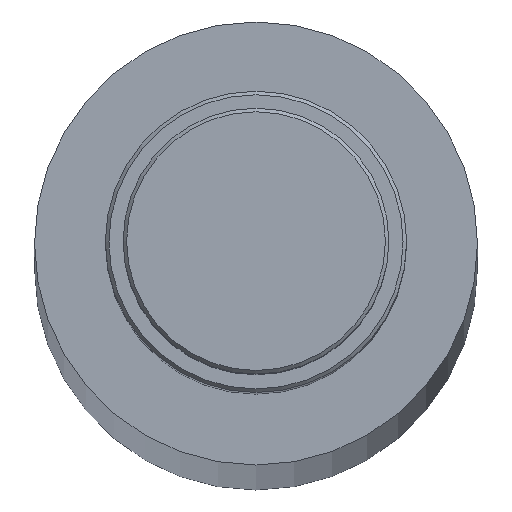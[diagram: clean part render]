
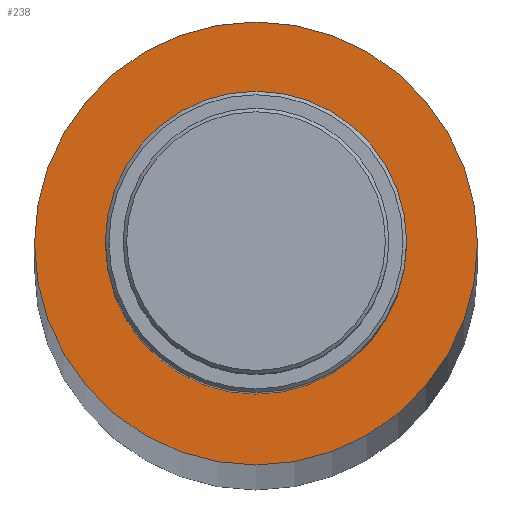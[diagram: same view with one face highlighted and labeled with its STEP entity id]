
A CAD part, top view. The second image highlights one B-rep face of the part: STEP entity #238.
In plain terms, the highlighted planar face has unit normal (0, 0, 1).
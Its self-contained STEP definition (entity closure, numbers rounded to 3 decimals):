
#17=FACE_BOUND('',#65,.T.);
#24=PLANE('',#292);
#45=FACE_OUTER_BOUND('',#64,.T.);
#64=EDGE_LOOP('',(#208));
#65=EDGE_LOOP('',(#209));
#95=CIRCLE('',#268,12.5);
#105=CIRCLE('',#285,8.5);
#115=VERTEX_POINT('',#396);
#125=VERTEX_POINT('',#427);
#137=EDGE_CURVE('',#115,#115,#95,.T.);
#150=EDGE_CURVE('',#125,#125,#105,.T.);
#208=ORIENTED_EDGE('',*,*,#137,.F.);
#209=ORIENTED_EDGE('',*,*,#150,.T.);
#238=ADVANCED_FACE('',(#45,#17),#24,.T.);
#268=AXIS2_PLACEMENT_3D('',#398,#314,#315);
#285=AXIS2_PLACEMENT_3D('',#428,#351,#352);
#292=AXIS2_PLACEMENT_3D('',#441,#368,#369);
#314=DIRECTION('center_axis',(0.,0.,-1.));
#315=DIRECTION('ref_axis',(1.,0.,0.));
#351=DIRECTION('center_axis',(0.,0.,-1.));
#352=DIRECTION('ref_axis',(1.,0.,0.));
#368=DIRECTION('center_axis',(0.,0.,1.));
#369=DIRECTION('ref_axis',(1.,0.,0.));
#396=CARTESIAN_POINT('',(0.,-12.5,-76.));
#398=CARTESIAN_POINT('Origin',(0.,0.,-76.));
#427=CARTESIAN_POINT('',(0.,-8.5,-76.));
#428=CARTESIAN_POINT('Origin',(0.,0.,-76.));
#441=CARTESIAN_POINT('Origin',(0.,12.5,-76.));
